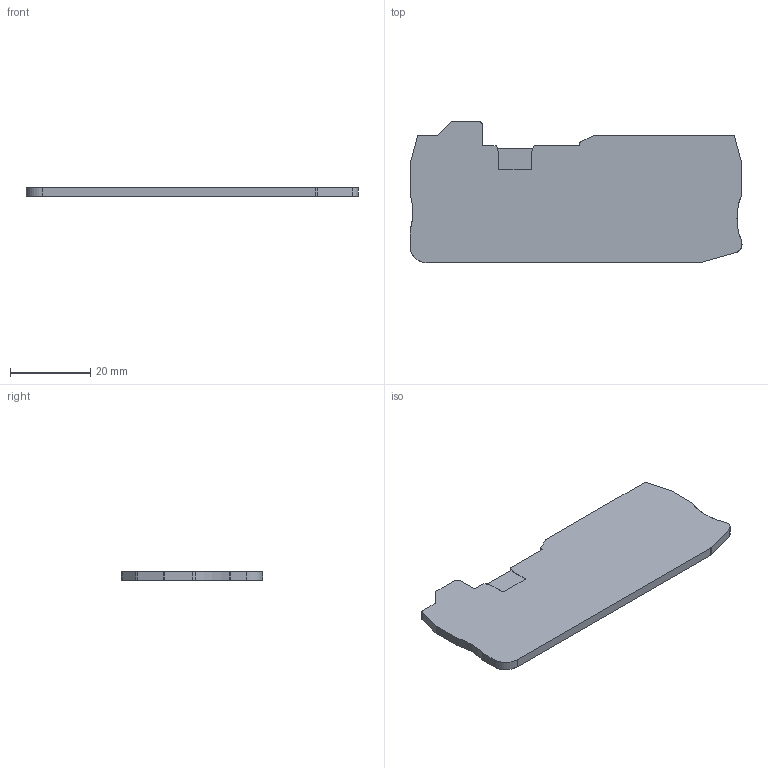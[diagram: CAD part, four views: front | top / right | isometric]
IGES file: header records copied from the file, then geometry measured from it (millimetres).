
Global section: file name: 3050510_d_qtcu25_twin_select.igs; native system: OneSpace Designer 3D IGES; preprocessor: 12.01C  26-Mar-2004; date: 20050303.141532; units: millimetre
Bounding box: 82.5 x 35.05 x 2.2 mm (x, y, z)
Surface area: 5551 mm2 (no closed solid volume)
Topology: 0 solids, 0 shells, 52 faces, 410 edges, 410 vertices
Faces by surface type: bspline 52
